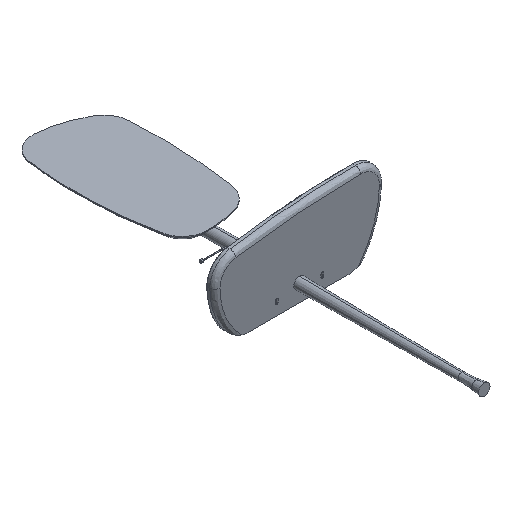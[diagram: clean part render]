
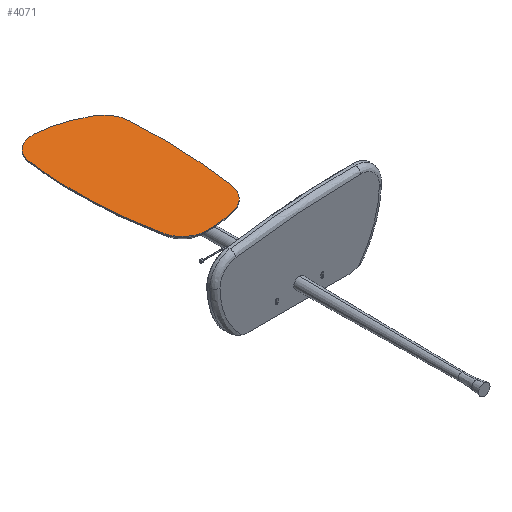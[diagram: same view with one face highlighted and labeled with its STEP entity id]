
A CAD part, isometric view. The second image highlights one B-rep face of the part: STEP entity #4071.
In plain terms, the highlighted planar face has unit normal (0, 0, 1).
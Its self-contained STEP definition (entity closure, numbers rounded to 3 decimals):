
#177 = EDGE_CURVE ( 'NONE', #11492, #8151, #9777, .T. ) ;
#346 = CARTESIAN_POINT ( 'NONE',  ( -383.958, 1108.078, 769.496 ) ) ;
#681 = DIRECTION ( 'NONE',  ( 0., 0., 1. ) ) ;
#847 = CARTESIAN_POINT ( 'NONE',  ( -40.441, 781.833, 769.496 ) ) ;
#857 = CIRCLE ( 'NONE', #10947, 2086.87 ) ;
#883 = AXIS2_PLACEMENT_3D ( 'NONE', #11769, #3602, #10515 ) ;
#976 = CARTESIAN_POINT ( 'NONE',  ( -244.933, 667.264, 769.496 ) ) ;
#1262 = CARTESIAN_POINT ( 'NONE',  ( -114.04, 689.446, 769.496 ) ) ;
#1411 = CARTESIAN_POINT ( 'NONE',  ( -147.9, 1192.499, 769.496 ) ) ;
#1670 = FACE_OUTER_BOUND ( 'NONE', #7277, .T. ) ;
#1727 = CARTESIAN_POINT ( 'NONE',  ( -377.035, 1251.445, 769.496 ) ) ;
#2137 = CARTESIAN_POINT ( 'NONE',  ( 1104.07, 1108.078, 769.496 ) ) ;
#2335 = CIRCLE ( 'NONE', #11548, 95. ) ;
#2445 = DIRECTION ( 'NONE',  ( 1., 0., 0. ) ) ;
#2613 = EDGE_CURVE ( 'NONE', #8197, #12017, #9144, .T. ) ;
#2614 = CARTESIAN_POINT ( 'NONE',  ( -282.477, 1242.292, 769.496 ) ) ;
#2771 = CARTESIAN_POINT ( 'NONE',  ( -2115.615, 1002.467, 769.496 ) ) ;
#2789 = AXIS2_PLACEMENT_3D ( 'NONE', #8287, #11524, #6120 ) ;
#2845 = EDGE_CURVE ( 'NONE', #12017, #3370, #2335, .T. ) ;
#2873 = EDGE_CURVE ( 'NONE', #6028, #10057, #857, .T. ) ;
#2973 = DIRECTION ( 'NONE',  ( 0., 0., 1. ) ) ;
#3122 = CARTESIAN_POINT ( 'NONE',  ( -280.181, 1337.264, 769.496 ) ) ;
#3368 = DIRECTION ( 'NONE',  ( -1., 0., 0. ) ) ;
#3370 = VERTEX_POINT ( 'NONE', #976 ) ;
#3562 = AXIS2_PLACEMENT_3D ( 'NONE', #1411, #6934, #6333 ) ;
#3568 = DIRECTION ( 'NONE',  ( 0., 0., 1. ) ) ;
#3583 = EDGE_CURVE ( 'NONE', #3370, #9055, #3694, .T. ) ;
#3602 = DIRECTION ( 'NONE',  ( 0., 0., 1. ) ) ;
#3604 = EDGE_CURVE ( 'NONE', #9055, #6028, #7930, .T. ) ;
#3694 = CIRCLE ( 'NONE', #5764, 407.885 ) ;
#3758 = CARTESIAN_POINT ( 'NONE',  ( -246.73, 1075.145, 769.496 ) ) ;
#3790 = CARTESIAN_POINT ( 'NONE',  ( -290.285, 919.388, 769.496 ) ) ;
#3961 = DIRECTION ( 'NONE',  ( 0., 0., 1. ) ) ;
#4071 = ADVANCED_FACE ( 'NONE', ( #1670 ), #4613, .T. ) ;
#4299 = DIRECTION ( 'NONE',  ( 0., 0., 1. ) ) ;
#4320 = VERTEX_POINT ( 'NONE', #7396 ) ;
#4462 = ORIENTED_EDGE ( 'NONE', *, *, #3583, .T. ) ;
#4613 = PLANE ( 'NONE',  #12000 ) ;
#4617 = AXIS2_PLACEMENT_3D ( 'NONE', #2614, #681, #6946 ) ;
#5007 = DIRECTION ( 'NONE',  ( 0., 0., 1. ) ) ;
#5764 = AXIS2_PLACEMENT_3D ( 'NONE', #3758, #3568, #3368 ) ;
#5896 = ORIENTED_EDGE ( 'NONE', *, *, #2873, .T. ) ;
#5994 = CARTESIAN_POINT ( 'NONE',  ( -219.092, 1055.943, 769.496 ) ) ;
#6028 = VERTEX_POINT ( 'NONE', #847 ) ;
#6046 = AXIS2_PLACEMENT_3D ( 'NONE', #2137, #4299, #11276 ) ;
#6120 = DIRECTION ( 'NONE',  ( -1., 0., 0. ) ) ;
#6126 = CIRCLE ( 'NONE', #7799, 417.998 ) ;
#6145 = DIRECTION ( 'NONE',  ( 0., 0., 1. ) ) ;
#6207 = ORIENTED_EDGE ( 'NONE', *, *, #9435, .T. ) ;
#6333 = DIRECTION ( 'NONE',  ( -1., 0., 0. ) ) ;
#6414 = CARTESIAN_POINT ( 'NONE',  ( -337.378, 738.68, 769.496 ) ) ;
#6487 = ORIENTED_EDGE ( 'NONE', *, *, #7208, .T. ) ;
#6529 = ORIENTED_EDGE ( 'NONE', *, *, #177, .T. ) ;
#6718 = DIRECTION ( 'NONE',  ( -1., 0., 0. ) ) ;
#6934 = DIRECTION ( 'NONE',  ( 0., 0., 1. ) ) ;
#6946 = DIRECTION ( 'NONE',  ( -1., 0., 0. ) ) ;
#7208 = EDGE_CURVE ( 'NONE', #8151, #8197, #8345, .T. ) ;
#7277 = EDGE_LOOP ( 'NONE', ( #7842, #5896, #6207, #11508, #6529, #6487, #8900, #8493, #4462 ) ) ;
#7396 = CARTESIAN_POINT ( 'NONE',  ( -97.048, 1290.039, 769.496 ) ) ;
#7736 = DIRECTION ( 'NONE',  ( -1., 0., 0. ) ) ;
#7799 = AXIS2_PLACEMENT_3D ( 'NONE', #3790, #6145, #7736 ) ;
#7842 = ORIENTED_EDGE ( 'NONE', *, *, #3604, .T. ) ;
#7930 = CIRCLE ( 'NONE', #2789, 110. ) ;
#8151 = VERTEX_POINT ( 'NONE', #1727 ) ;
#8197 = VERTEX_POINT ( 'NONE', #346 ) ;
#8287 = CARTESIAN_POINT ( 'NONE',  ( -149.825, 793.463, 769.496 ) ) ;
#8345 = CIRCLE ( 'NONE', #883, 1488.028 ) ;
#8493 = ORIENTED_EDGE ( 'NONE', *, *, #2845, .T. ) ;
#8900 = ORIENTED_EDGE ( 'NONE', *, *, #2613, .T. ) ;
#9055 = VERTEX_POINT ( 'NONE', #1262 ) ;
#9144 = CIRCLE ( 'NONE', #6046, 1488.028 ) ;
#9416 = CARTESIAN_POINT ( 'NONE',  ( -38.409, 1203.073, 769.496 ) ) ;
#9435 = EDGE_CURVE ( 'NONE', #10057, #4320, #10150, .T. ) ;
#9689 = DIRECTION ( 'NONE',  ( -1., 0., 0. ) ) ;
#9777 = CIRCLE ( 'NONE', #4617, 95. ) ;
#10057 = VERTEX_POINT ( 'NONE', #9416 ) ;
#10150 = CIRCLE ( 'NONE', #3562, 110. ) ;
#10449 = EDGE_CURVE ( 'NONE', #4320, #11492, #6126, .T. ) ;
#10515 = DIRECTION ( 'NONE',  ( -1., 0., 0. ) ) ;
#10947 = AXIS2_PLACEMENT_3D ( 'NONE', #2771, #3961, #9689 ) ;
#11276 = DIRECTION ( 'NONE',  ( -1., 0., 0. ) ) ;
#11492 = VERTEX_POINT ( 'NONE', #3122 ) ;
#11508 = ORIENTED_EDGE ( 'NONE', *, *, #10449, .T. ) ;
#11524 = DIRECTION ( 'NONE',  ( 0., 0., 1. ) ) ;
#11548 = AXIS2_PLACEMENT_3D ( 'NONE', #11929, #2973, #6718 ) ;
#11769 = CARTESIAN_POINT ( 'NONE',  ( 1104.07, 1108.078, 769.496 ) ) ;
#11929 = CARTESIAN_POINT ( 'NONE',  ( -245.351, 762.263, 769.496 ) ) ;
#12000 = AXIS2_PLACEMENT_3D ( 'NONE', #5994, #5007, #2445 ) ;
#12017 = VERTEX_POINT ( 'NONE', #6414 ) ;
